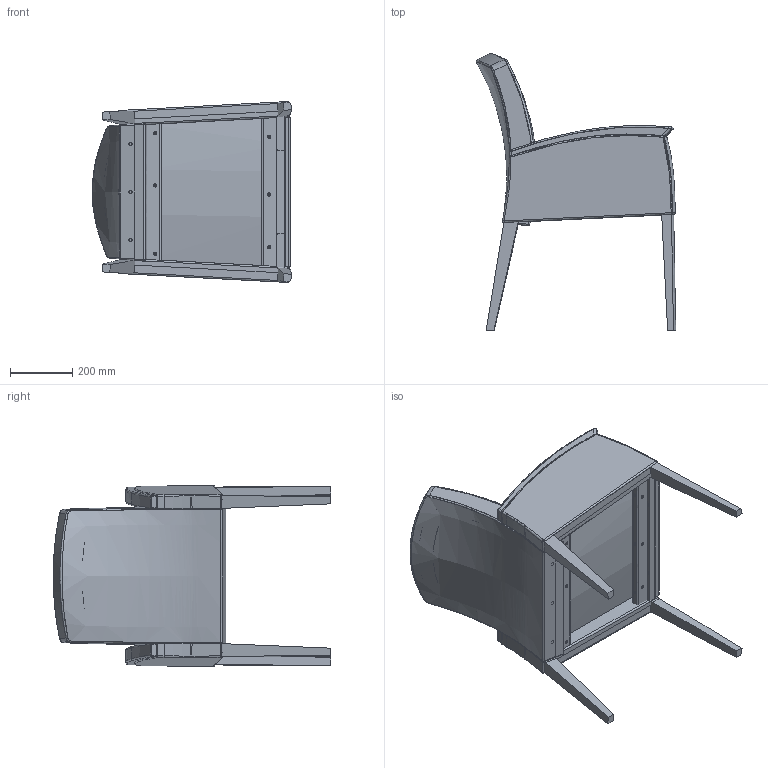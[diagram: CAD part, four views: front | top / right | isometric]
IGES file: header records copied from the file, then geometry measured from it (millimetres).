
Start section: SolidWorks IGES file using analytic representation for surfaces
Global section: file name: C:\Users\emanuel\Desktop\Siana_3D\Regina SG829.IGS; native system: SolidWorks 2015; preprocessor: SolidWorks 2015; author: Emanuel; date: 151113.151853; units: millimetre
Bounding box: 642.76 x 893.84 x 582.97 mm (x, y, z)
Surface area: 3989068.5 mm2 (no closed solid volume)
Topology: 0 solids, 0 shells, 1252 faces, 20953 edges, 20945 vertices
Faces by surface type: bspline 684, revolution 568
